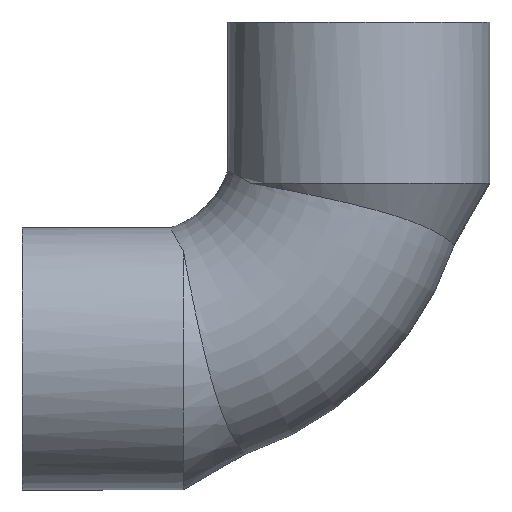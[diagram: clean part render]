
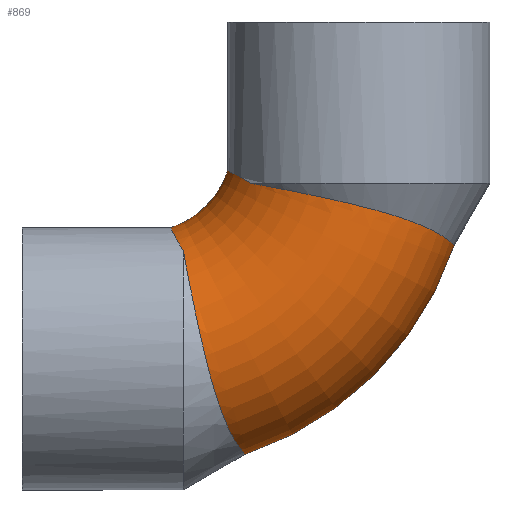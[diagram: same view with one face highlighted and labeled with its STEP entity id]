
A CAD part, top view. The second image highlights one B-rep face of the part: STEP entity #869.
In plain terms, the highlighted toroidal (fillet/blend) face has major radius 14 mm and minor radius 8 mm.
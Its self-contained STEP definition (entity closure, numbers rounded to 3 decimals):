
#165=CARTESIAN_POINT('',(6.874,-20.899,0.));
#166=VERTEX_POINT('',#165);
#167=CARTESIAN_POINT('',(20.899,-6.874,0.));
#168=VERTEX_POINT('',#167);
#169=CARTESIAN_POINT('',(0.0,0.0,0.));
#170=DIRECTION('',(0.0,0.0,1.0));
#171=DIRECTION('',(1.0,0.0,0.0));
#172=AXIS2_PLACEMENT_3D('',#169,#170,#171);
#173=CIRCLE('',#172,22.0);
#174=EDGE_CURVE('',#166,#168,#173,.T.);
#197=CARTESIAN_POINT('',(1.873,-5.7,0.));
#198=VERTEX_POINT('',#197);
#212=CARTESIAN_POINT('',(5.7,-1.873,0.));
#213=VERTEX_POINT('',#212);
#214=CARTESIAN_POINT('',(0.0,0.0,0.));
#215=DIRECTION('',(0.0,0.0,-1.0));
#216=DIRECTION('',(1.0,0.0,0.0));
#217=AXIS2_PLACEMENT_3D('',#214,#215,#216);
#218=CIRCLE('',#217,6.);
#219=EDGE_CURVE('',#213,#198,#218,.T.);
#329=CARTESIAN_POINT('',(2.714,-7.233,4.963));
#330=VERTEX_POINT('',#329);
#331=CARTESIAN_POINT('',(2.714,-7.233,4.963));
#332=CARTESIAN_POINT('',(2.781,-7.582,5.406));
#333=CARTESIAN_POINT('',(2.856,-7.976,5.81));
#334=CARTESIAN_POINT('',(3.027,-8.864,6.549));
#335=CARTESIAN_POINT('',(3.123,-9.36,6.876));
#336=CARTESIAN_POINT('',(3.398,-10.756,7.587));
#337=CARTESIAN_POINT('',(3.59,-11.697,7.865));
#338=CARTESIAN_POINT('',(4.019,-13.64,8.06));
#339=CARTESIAN_POINT('',(4.254,-14.626,7.969));
#340=CARTESIAN_POINT('',(4.77,-16.52,7.407));
#341=CARTESIAN_POINT('',(5.047,-17.407,6.933));
#342=CARTESIAN_POINT('',(5.629,-18.942,5.649));
#343=CARTESIAN_POINT('',(5.929,-19.567,4.852));
#344=CARTESIAN_POINT('',(6.46,-20.442,3.101));
#345=CARTESIAN_POINT('',(6.68,-20.695,2.201));
#346=CARTESIAN_POINT('',(6.845,-20.871,0.864));
#347=CARTESIAN_POINT('',(6.874,-20.899,0.433));
#348=CARTESIAN_POINT('',(6.874,-20.899,0.));
#349=B_SPLINE_CURVE_WITH_KNOTS('',3,(#331,#332,#333,#334,#335,#336,#337,#338,#339,#340,#341,#342,#343,#344,#345,#346,#347,#348),.UNSPECIFIED.,.F.,.U.,(4,2,2,2,2,2,2,2,4),(-4.01,-3.84,-3.661,-3.364,-3.063,-2.754,-2.44,-2.147,-2.008),.UNSPECIFIED.);
#350=EDGE_CURVE('',#330,#166,#349,.T.);
#376=CARTESIAN_POINT('',(1.873,-5.7,0.));
#377=CARTESIAN_POINT('',(1.873,-5.7,0.33));
#378=CARTESIAN_POINT('',(1.882,-5.719,0.659));
#379=CARTESIAN_POINT('',(1.93,-5.818,1.537));
#380=CARTESIAN_POINT('',(1.986,-5.932,2.08));
#381=CARTESIAN_POINT('',(2.205,-6.36,3.462));
#382=CARTESIAN_POINT('',(2.411,-6.753,4.259));
#383=CARTESIAN_POINT('',(2.714,-7.233,4.963));
#384=B_SPLINE_CURVE_WITH_KNOTS('',3,(#376,#377,#378,#379,#380,#381,#382,#383),.UNSPECIFIED.,.F.,.U.,(4,2,2,4),(-0.536,-0.437,-0.271,0.0),.UNSPECIFIED.);
#385=EDGE_CURVE('',#198,#330,#384,.T.);
#727=CARTESIAN_POINT('',(7.233,-2.714,4.963));
#728=VERTEX_POINT('',#727);
#729=CARTESIAN_POINT('',(7.233,-2.714,4.963));
#730=CARTESIAN_POINT('',(6.971,-2.549,4.579));
#731=CARTESIAN_POINT('',(6.734,-2.413,4.167));
#732=CARTESIAN_POINT('',(6.238,-2.139,3.108));
#733=CARTESIAN_POINT('',(6.016,-2.029,2.442));
#734=CARTESIAN_POINT('',(5.782,-1.913,1.286));
#735=CARTESIAN_POINT('',(5.725,-1.885,0.812));
#736=CARTESIAN_POINT('',(5.702,-1.875,0.223));
#737=CARTESIAN_POINT('',(5.7,-1.873,0.112));
#738=CARTESIAN_POINT('',(5.7,-1.873,0.));
#739=B_SPLINE_CURVE_WITH_KNOTS('',3,(#729,#730,#731,#732,#733,#734,#735,#736,#737,#738),.UNSPECIFIED.,.F.,.U.,(4,2,2,2,4),(-1.071,-0.923,-0.712,-0.569,-0.536),.UNSPECIFIED.);
#740=EDGE_CURVE('',#728,#213,#739,.T.);
#780=CARTESIAN_POINT('',(20.899,-6.874,0.));
#781=CARTESIAN_POINT('',(20.899,-6.874,0.365));
#782=CARTESIAN_POINT('',(20.879,-6.854,0.73));
#783=CARTESIAN_POINT('',(20.727,-6.708,2.103));
#784=CARTESIAN_POINT('',(20.456,-6.464,3.1));
#785=CARTESIAN_POINT('',(19.538,-5.916,4.883));
#786=CARTESIAN_POINT('',(18.94,-5.63,5.643));
#787=CARTESIAN_POINT('',(17.454,-5.063,6.902));
#788=CARTESIAN_POINT('',(16.579,-4.787,7.379));
#789=CARTESIAN_POINT('',(14.656,-4.261,7.969));
#790=CARTESIAN_POINT('',(13.627,-4.016,8.066));
#791=CARTESIAN_POINT('',(11.568,-3.562,7.845));
#792=CARTESIAN_POINT('',(10.56,-3.359,7.523));
#793=CARTESIAN_POINT('',(8.714,-2.996,6.499));
#794=CARTESIAN_POINT('',(7.894,-2.841,5.802));
#795=CARTESIAN_POINT('',(7.233,-2.714,4.963));
#796=B_SPLINE_CURVE_WITH_KNOTS('',3,(#780,#781,#782,#783,#784,#785,#786,#787,#788,#789,#790,#791,#792,#793,#794,#795),.UNSPECIFIED.,.F.,.U.,(4,2,2,2,2,2,2,4),(-2.008,-1.89,-1.567,-1.266,-0.958,-0.643,-0.323,0.0),.UNSPECIFIED.);
#797=EDGE_CURVE('',#168,#728,#796,.T.);
#856=CARTESIAN_POINT('',(0.0,0.0,0.0));
#857=DIRECTION('',(0.0,0.0,1.0));
#858=DIRECTION('',(1.0,0.0,0.0));
#859=AXIS2_PLACEMENT_3D('',#856,#857,#858);
#860=TOROIDAL_SURFACE('',#859,14.,8.0);
#861=ORIENTED_EDGE('',*,*,#174,.T.);
#862=ORIENTED_EDGE('',*,*,#797,.T.);
#863=ORIENTED_EDGE('',*,*,#740,.T.);
#864=ORIENTED_EDGE('',*,*,#219,.T.);
#865=ORIENTED_EDGE('',*,*,#385,.T.);
#866=ORIENTED_EDGE('',*,*,#350,.T.);
#867=EDGE_LOOP('',(#861,#862,#863,#864,#865,#866));
#868=FACE_OUTER_BOUND('',#867,.T.);
#869=ADVANCED_FACE('',(#868),#860,.T.);
